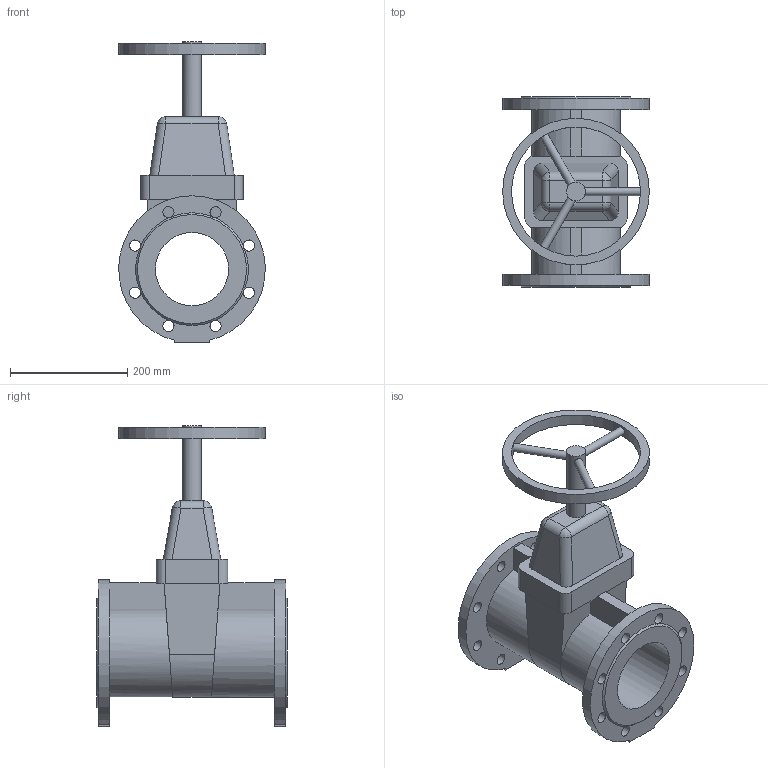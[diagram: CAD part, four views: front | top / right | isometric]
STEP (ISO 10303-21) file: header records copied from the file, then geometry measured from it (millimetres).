
FILE_DESCRIPTION(('STEP AP203'), '1');
FILE_NAME('Çàäâèæêà 47GV DN125 PN10_PN16_L325 ñ ìàõîâèêîì', '', ('UNSPECIFIED'), ('UNSPECIFIED'), 'ASCON STEP Converter 1.6', 'ASCON Math Kernel', '');
FILE_SCHEMA(('CONFIG_CONTROL_DESIGN'));
Length unit declared in the file: millimetre
Bounding box: 250 x 325 x 513 mm (x, y, z)
Volume: 6241240.7 mm3; surface area: 628026.4 mm2
Topology: 1 solids, 1 shells, 108 faces, 319 edges, 204 vertices
Faces by surface type: plane 54, cylinder 48, bspline 4, cone 2
Full cylindrical faces by diameter (mm): 14 x3, 19 x16, 32 x1, 125 x1, 220 x1, 250 x1
Entity records: 5935 total; most frequent: CARTESIAN_POINT 2193, ORIENTED_EDGE 580, DIRECTION 578, EDGE_CURVE 290, AXIS2_PLACEMENT_3D 221, VERTEX_POINT 204, EDGE_LOOP 168, FACE_BOUND 136
